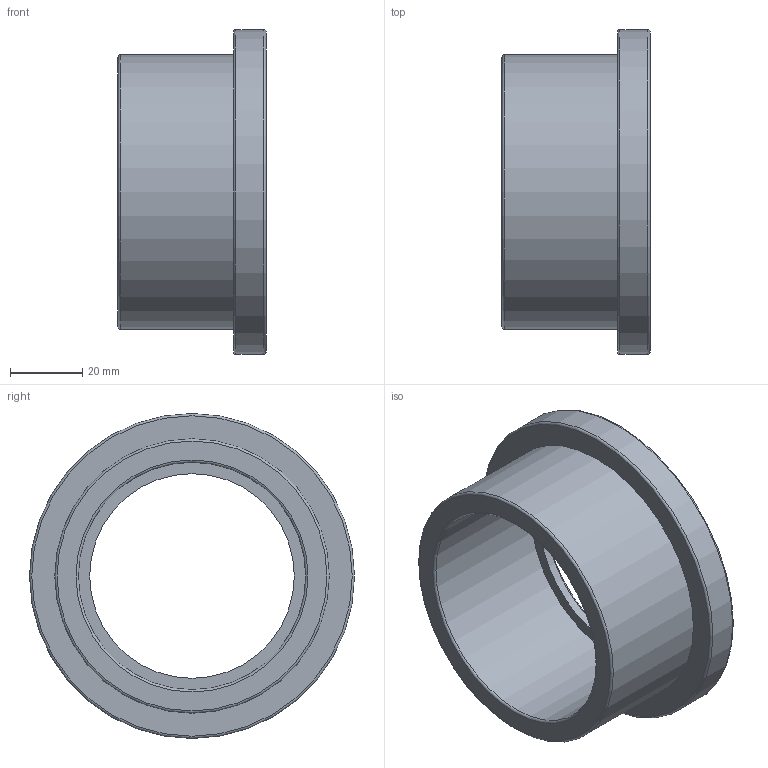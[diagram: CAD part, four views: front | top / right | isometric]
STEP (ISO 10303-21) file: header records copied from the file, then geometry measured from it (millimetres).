
FILE_DESCRIPTION(/* description */ ('PLASSON FLANGE FLAT AD.-CEM 63'),/* implementation_level */ '2;1');
FILE_NAME(/* name */ 'C:\Dropbox\KIMPROJECTS-Inventor\99-16-3568-Processing\PVC Catalog 2017\26_09_18\055100\055100063.ipt.stp',/* time_stamp */ '2018-09-27T11:50:48+03:00',/* author */ ('KIM'),/* organization */ (''),/* preprocessor_version */ 'ST-DEVELOPER v15.6',/* originating_system */ 'Autodesk Inventor 2015',/* authorisation */ '');
FILE_SCHEMA (('AUTOMOTIVE_DESIGN { 1 0 10303 214 3 1 1 }'));
Length unit declared in the file: millimetre
Products named in the file (1): 055100063
Bounding box: 41 x 90 x 90 mm (x, y, z)
Volume: 76291.6 mm3; surface area: 25594.6 mm2
Topology: 1 solids, 1 shells, 13 faces, 22 edges, 13 vertices
Faces by surface type: torus 5, cylinder 4, plane 4
Full cylindrical faces by diameter (mm): 56.7 x1, 63 x1, 76 x1, 90 x1
Entity records: 292 total; most frequent: DIRECTION 54, CARTESIAN_POINT 40, AXIS2_PLACEMENT_3D 27, EDGE_LOOP 26, ORIENTED_EDGE 26, FACE_BOUND 13, FACE_OUTER_BOUND 13, CIRCLE 13
